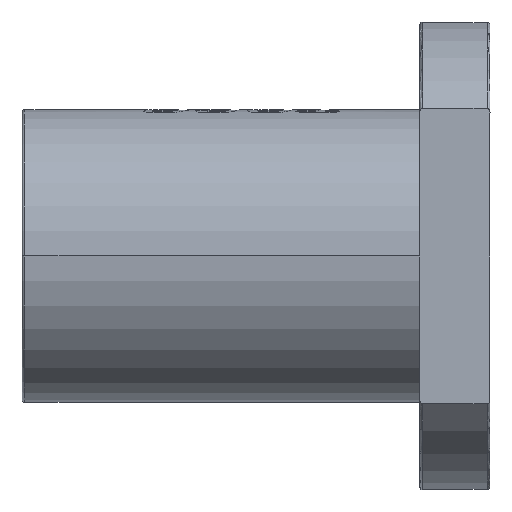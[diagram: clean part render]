
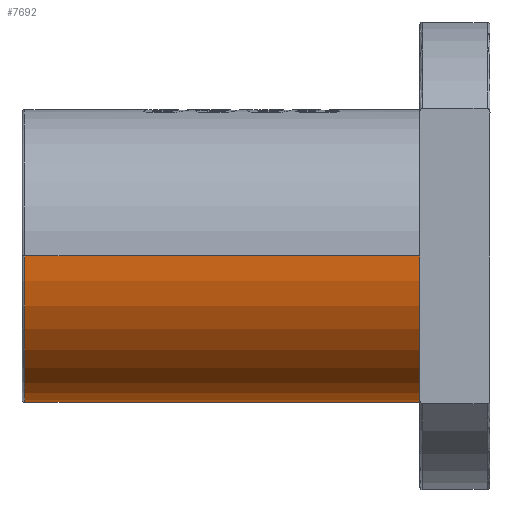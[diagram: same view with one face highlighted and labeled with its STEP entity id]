
A CAD part, front view. The second image highlights one B-rep face of the part: STEP entity #7692.
In plain terms, the highlighted cylindrical face has radius 25 mm (diameter 50 mm), a partial arc.
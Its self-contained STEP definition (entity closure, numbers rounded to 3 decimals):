
#8 = EDGE_LOOP ( 'NONE', ( #6119, #7874, #5346, #207 ) ) ;
#207 = ORIENTED_EDGE ( 'NONE', *, *, #7232, .T. ) ;
#322 = VERTEX_POINT ( 'NONE', #8201 ) ;
#539 = DIRECTION ( 'NONE',  ( 0., 1., 0. ) ) ;
#1192 = VECTOR ( 'NONE', #1774, 1000. ) ;
#1220 = EDGE_CURVE ( 'NONE', #322, #5536, #6068, .T. ) ;
#1598 = DIRECTION ( 'NONE',  ( 0., 1., 0. ) ) ;
#1774 = DIRECTION ( 'NONE',  ( 1., 0., 0. ) ) ;
#1809 = VECTOR ( 'NONE', #2484, 1000. ) ;
#2019 = CARTESIAN_POINT ( 'NONE',  ( -31.893, 25., 0. ) ) ;
#2169 = CIRCLE ( 'NONE', #8316, 25. ) ;
#2345 = AXIS2_PLACEMENT_3D ( 'NONE', #4949, #3963, #4840 ) ;
#2484 = DIRECTION ( 'NONE',  ( 1., 0., 0. ) ) ;
#2644 = CARTESIAN_POINT ( 'NONE',  ( -99.393, -25., 0. ) ) ;
#3108 = CARTESIAN_POINT ( 'NONE',  ( -94.593, -25., 0. ) ) ;
#3231 = CIRCLE ( 'NONE', #2345, 25. ) ;
#3937 = AXIS2_PLACEMENT_3D ( 'NONE', #6455, #9136, #1598 ) ;
#3963 = DIRECTION ( 'NONE',  ( -1., 0., 0. ) ) ;
#3986 = LINE ( 'NONE', #3108, #1809 ) ;
#4840 = DIRECTION ( 'NONE',  ( 0., 1., 0. ) ) ;
#4949 = CARTESIAN_POINT ( 'NONE',  ( -31.893, 0., 0. ) ) ;
#5346 = ORIENTED_EDGE ( 'NONE', *, *, #1220, .T. ) ;
#5536 = VERTEX_POINT ( 'NONE', #2019 ) ;
#6068 = LINE ( 'NONE', #8384, #1192 ) ;
#6119 = ORIENTED_EDGE ( 'NONE', *, *, #7742, .F. ) ;
#6455 = CARTESIAN_POINT ( 'NONE',  ( -94.593, 0., 0. ) ) ;
#7232 = EDGE_CURVE ( 'NONE', #5536, #8638, #3231, .T. ) ;
#7281 = EDGE_CURVE ( 'NONE', #7843, #322, #2169, .T. ) ;
#7692 = ADVANCED_FACE ( 'NONE', ( #10013 ), #10784, .T. ) ;
#7742 = EDGE_CURVE ( 'NONE', #7843, #8638, #3986, .T. ) ;
#7843 = VERTEX_POINT ( 'NONE', #2644 ) ;
#7874 = ORIENTED_EDGE ( 'NONE', *, *, #7281, .T. ) ;
#8201 = CARTESIAN_POINT ( 'NONE',  ( -99.393, 25., 0. ) ) ;
#8240 = CARTESIAN_POINT ( 'NONE',  ( -31.893, -25., 0. ) ) ;
#8316 = AXIS2_PLACEMENT_3D ( 'NONE', #10660, #9005, #539 ) ;
#8384 = CARTESIAN_POINT ( 'NONE',  ( -94.593, 25., 0. ) ) ;
#8638 = VERTEX_POINT ( 'NONE', #8240 ) ;
#9005 = DIRECTION ( 'NONE',  ( 1., 0., 0. ) ) ;
#9136 = DIRECTION ( 'NONE',  ( 1., 0., 0. ) ) ;
#10013 = FACE_OUTER_BOUND ( 'NONE', #8, .T. ) ;
#10660 = CARTESIAN_POINT ( 'NONE',  ( -99.393, 0., 0. ) ) ;
#10784 = CYLINDRICAL_SURFACE ( 'NONE', #3937, 25. ) ;
